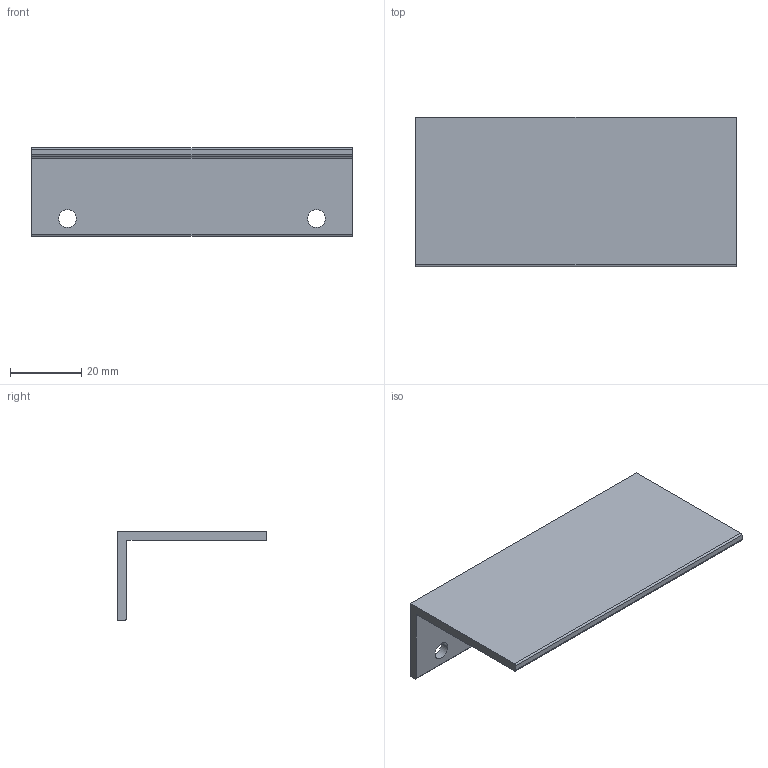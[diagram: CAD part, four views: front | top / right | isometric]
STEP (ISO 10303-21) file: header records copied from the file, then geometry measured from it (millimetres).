
FILE_DESCRIPTION( ( '' ), '1' );
FILE_NAME( 'D:/1.AUTOCAD EXPORT/Group 10/sheet_10_1/ 9070593.stp', '2013-10-21T12:30:21', ( '' ), ( '' ), ' ', ' ', ' ' );
FILE_SCHEMA( ( 'automotive_design' ) );
Length unit declared in the file: millimetre
Products named in the file (1): 1
Bounding box: 90 x 42 x 25 mm (x, y, z)
Volume: 14399.8 mm3; surface area: 12285.6 mm2
Topology: 1 solids, 1 shells, 17 faces, 45 edges, 30 vertices
Faces by surface type: cylinder 9, plane 8
Entity records: 1080 total; most frequent: DIRECTION 99, STYLED_ITEM 93, PRESENTATION_STYLE_ASSIGNMENT 93, CARTESIAN_POINT 93, COLOUR_RGB 93, ORIENTED_EDGE 90, EDGE_CURVE 45, CURVE_STYLE 45
